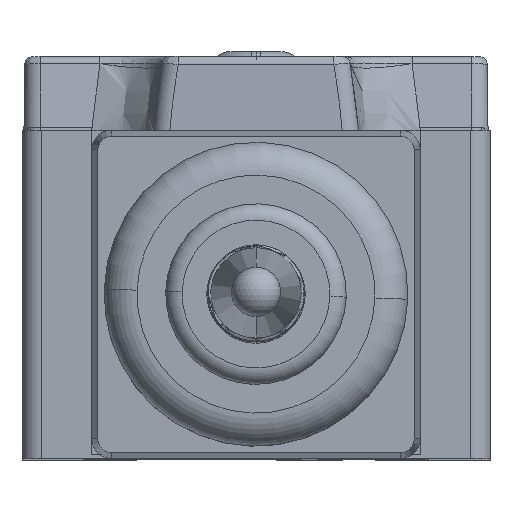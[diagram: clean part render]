
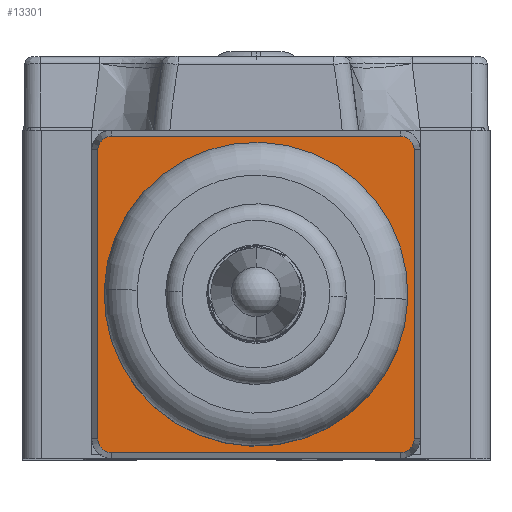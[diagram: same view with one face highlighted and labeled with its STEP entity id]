
A CAD part, top view. The second image highlights one B-rep face of the part: STEP entity #13301.
In plain terms, the highlighted planar face has unit normal (0, 0, 1).
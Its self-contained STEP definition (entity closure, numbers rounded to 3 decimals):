
#3622=DIRECTION('',(1.,0.,0.));
#3623=VECTOR('',#3622,17.6);
#3624=CARTESIAN_POINT('',(-8.8,19.632,3.5));
#3625=LINE('',#3624,#3623);
#4622=CARTESIAN_POINT('',(8.8,18.8,3.5));
#4623=DIRECTION('',(0.,0.,1.));
#4624=DIRECTION('',(1.,0.,0.));
#4625=AXIS2_PLACEMENT_3D('',#4622,#4623,#4624);
#4627=DIRECTION('',(0.,1.,0.));
#4628=VECTOR('',#4627,17.6);
#4629=CARTESIAN_POINT('',(9.632,1.2,3.5));
#4630=LINE('',#4629,#4628);
#4631=CARTESIAN_POINT('',(8.8,1.2,3.5));
#4632=DIRECTION('',(0.,0.,1.));
#4633=DIRECTION('',(0.,-1.,0.));
#4634=AXIS2_PLACEMENT_3D('',#4631,#4632,#4633);
#4636=DIRECTION('',(1.,0.,0.));
#4637=VECTOR('',#4636,17.6);
#4638=CARTESIAN_POINT('',(-8.8,0.368,3.5));
#4639=LINE('',#4638,#4637);
#4640=CARTESIAN_POINT('',(-8.8,1.2,3.5));
#4641=DIRECTION('',(0.,0.,1.));
#4642=DIRECTION('',(-1.,0.,0.));
#4643=AXIS2_PLACEMENT_3D('',#4640,#4641,#4642);
#4645=DIRECTION('',(0.,-1.,0.));
#4646=VECTOR('',#4645,17.6);
#4647=CARTESIAN_POINT('',(-9.632,18.8,3.5));
#4648=LINE('',#4647,#4646);
#4649=CARTESIAN_POINT('',(-8.8,18.8,3.5));
#4650=DIRECTION('',(0.,0.,1.));
#4651=DIRECTION('',(0.,1.,0.));
#4652=AXIS2_PLACEMENT_3D('',#4649,#4650,#4651);
#4744=CARTESIAN_POINT('',(0.,10.,3.5));
#4745=DIRECTION('',(0.,0.,-1.));
#4746=DIRECTION('',(-0.999,0.033,0.));
#4747=AXIS2_PLACEMENT_3D('',#4744,#4745,#4746);
#4749=CARTESIAN_POINT('',(0.,10.,3.5));
#4750=DIRECTION('',(0.,0.,-1.));
#4751=DIRECTION('',(0.999,-0.033,0.));
#4752=AXIS2_PLACEMENT_3D('',#4749,#4750,#4751);
#6456=CARTESIAN_POINT('',(-8.8,19.632,3.5));
#6457=CARTESIAN_POINT('',(-9.632,18.8,3.5));
#6458=VERTEX_POINT('',#6456);
#6459=VERTEX_POINT('',#6457);
#6468=CARTESIAN_POINT('',(9.632,18.8,3.5));
#6469=CARTESIAN_POINT('',(8.8,19.632,3.5));
#6470=VERTEX_POINT('',#6468);
#6471=VERTEX_POINT('',#6469);
#6472=CARTESIAN_POINT('',(9.632,1.2,3.5));
#6473=VERTEX_POINT('',#6472);
#6474=CARTESIAN_POINT('',(8.8,0.368,3.5));
#6475=VERTEX_POINT('',#6474);
#6476=CARTESIAN_POINT('',(-8.8,0.368,3.5));
#6477=VERTEX_POINT('',#6476);
#6478=CARTESIAN_POINT('',(-9.632,1.2,3.5));
#6479=VERTEX_POINT('',#6478);
#7755=CARTESIAN_POINT('',(-9.245,10.308,3.5));
#7756=CARTESIAN_POINT('',(9.245,9.692,3.5));
#7757=VERTEX_POINT('',#7755);
#7758=VERTEX_POINT('',#7756);
#13276=CARTESIAN_POINT('',(0.,10.,3.5));
#13277=DIRECTION('',(0.,0.,1.));
#13278=DIRECTION('',(0.,-1.,0.));
#13279=AXIS2_PLACEMENT_3D('',#13276,#13277,#13278);
#13280=PLANE('',#13279);
#13282=ORIENTED_EDGE('',*,*,#13281,.F.);
#13283=ORIENTED_EDGE('',*,*,#12841,.F.);
#13284=ORIENTED_EDGE('',*,*,#12858,.F.);
#13286=ORIENTED_EDGE('',*,*,#13285,.F.);
#13288=ORIENTED_EDGE('',*,*,#13287,.F.);
#13290=ORIENTED_EDGE('',*,*,#13289,.F.);
#13291=ORIENTED_EDGE('',*,*,#11887,.F.);
#13292=ORIENTED_EDGE('',*,*,#11903,.T.);
#13293=EDGE_LOOP('',(#13282,#13283,#13284,#13286,#13288,#13290,#13291,#13292));
#13294=FACE_OUTER_BOUND('',#13293,.F.);
#13296=ORIENTED_EDGE('',*,*,#13295,.F.);
#13298=ORIENTED_EDGE('',*,*,#13297,.F.);
#13299=EDGE_LOOP('',(#13296,#13298));
#13300=FACE_BOUND('',#13299,.F.);
#13301=ADVANCED_FACE('',(#13294,#13300),#13280,.T.);
#4626=CIRCLE('',#4625,0.832);
#4635=CIRCLE('',#4634,0.832);
#4644=CIRCLE('',#4643,0.832);
#4653=CIRCLE('',#4652,0.832);
#4748=CIRCLE('',#4747,9.25);
#4753=CIRCLE('',#4752,9.25);
#11887=EDGE_CURVE('',#6458,#6459,#4653,.T.);
#11903=EDGE_CURVE('',#6458,#6471,#3625,.T.);
#12841=EDGE_CURVE('',#6473,#6470,#4630,.T.);
#12858=EDGE_CURVE('',#6475,#6473,#4635,.T.);
#13281=EDGE_CURVE('',#6470,#6471,#4626,.T.);
#13285=EDGE_CURVE('',#6477,#6475,#4639,.T.);
#13287=EDGE_CURVE('',#6479,#6477,#4644,.T.);
#13289=EDGE_CURVE('',#6459,#6479,#4648,.T.);
#13295=EDGE_CURVE('',#7757,#7758,#4748,.T.);
#13297=EDGE_CURVE('',#7758,#7757,#4753,.T.);
